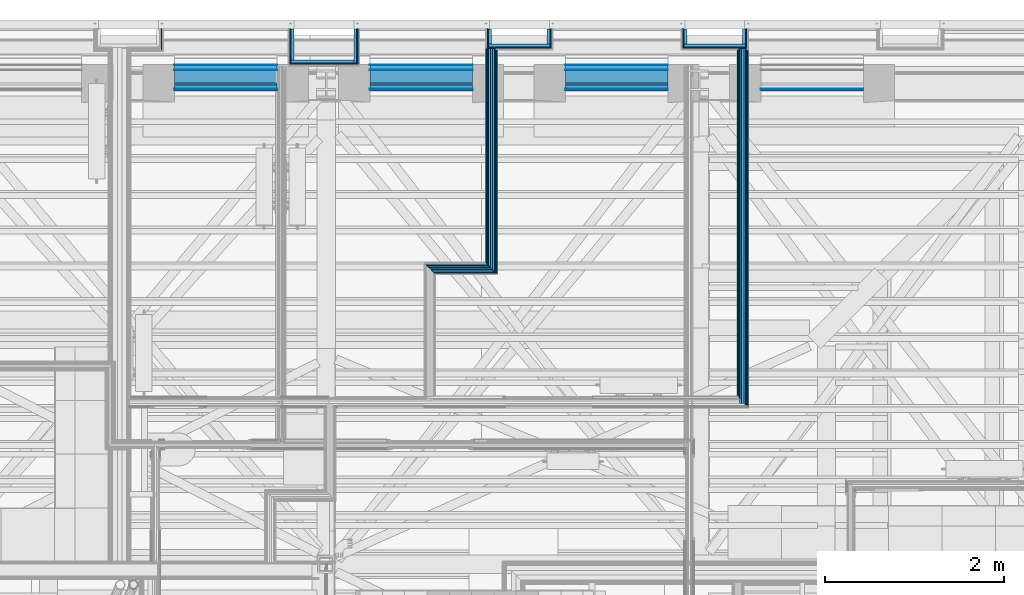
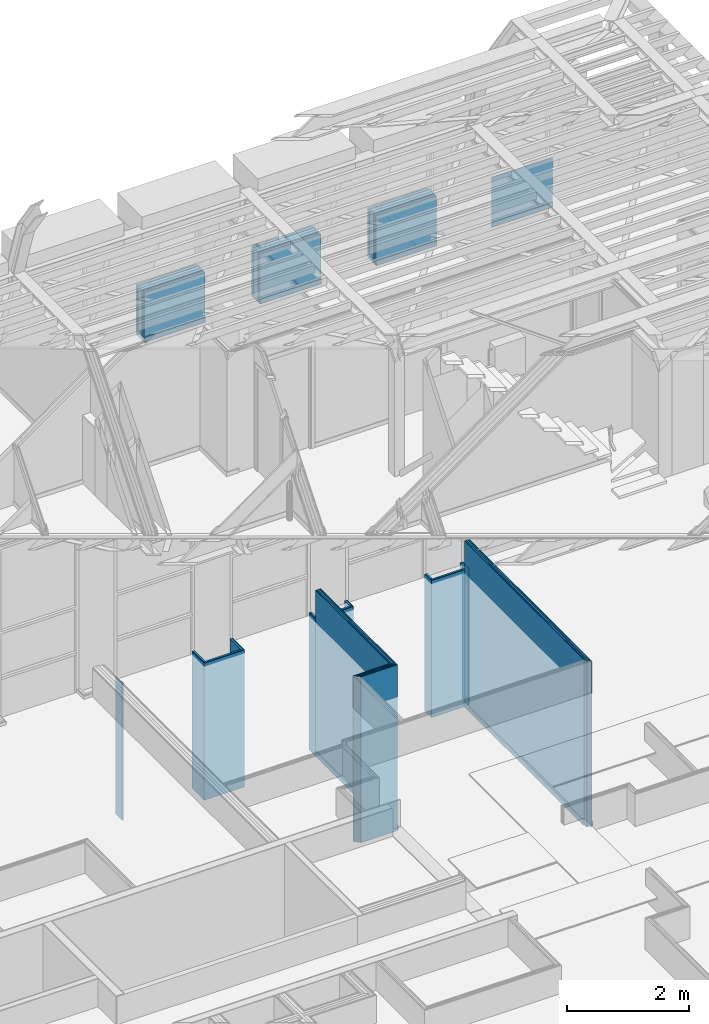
# One storey, part 59 of 183: 64 building element parts, 17 elements without a shape of their own.
"""IFC2X3 building model written with IfcOpenShell, lengths in metres."""

from ifc_helpers import new_model, entity, si_unit, converted_unit, derived_unit, money_unit, direction, frame, frame_2d, origin_with_axes, place, context, subcontext, project, spatial, polyline, rectangle, outline, extrude, material, type_object, element, aggregate, save


model = new_model("IFC2X3")

# Units and contexts
model_context = context("Model", 3, precision=1e-05, world=origin_with_axes(), true_north=direction((0.0, 1.0)))
body_context = subcontext(model_context, "Body", "Model", "MODEL_VIEW", scale=1.0)
ifc_project = project(units=[si_unit("LENGTHUNIT", "METRE"), si_unit("AREAUNIT", "SQUARE_METRE"), si_unit("VOLUMEUNIT", "CUBIC_METRE"), si_unit("ABSORBEDDOSEUNIT", "GRAY"), si_unit("AMOUNTOFSUBSTANCEUNIT", "MOLE"), si_unit("DOSEEQUIVALENTUNIT", "SIEVERT"), si_unit("ELECTRICCAPACITANCEUNIT", "FARAD"), si_unit("ELECTRICCHARGEUNIT", "COULOMB"), si_unit("ELECTRICCONDUCTANCEUNIT", "SIEMENS"), si_unit("ELECTRICCURRENTUNIT", "AMPERE"), si_unit("ELECTRICRESISTANCEUNIT", "OHM"), si_unit("ELECTRICVOLTAGEUNIT", "VOLT"), si_unit("ENERGYUNIT", "JOULE"), si_unit("FORCEUNIT", "NEWTON"), si_unit("FREQUENCYUNIT", "HERTZ"), si_unit("ILLUMINANCEUNIT", "LUX"), si_unit("INDUCTANCEUNIT", "HENRY"), si_unit("LUMINOUSFLUXUNIT", "LUMEN"), si_unit("LUMINOUSINTENSITYUNIT", "CANDELA"), si_unit("MAGNETICFLUXDENSITYUNIT", "TESLA"), si_unit("MAGNETICFLUXUNIT", "WEBER"), si_unit("MASSUNIT", "GRAM"), converted_unit("PLANEANGLEUNIT", "degree", entity("IfcReal", 0.0174532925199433), si_unit("PLANEANGLEUNIT", "RADIAN"), dimensions=[0, 0, 0, 0, 0, 0, 0]), si_unit("POWERUNIT", "WATT"), si_unit("PRESSUREUNIT", "PASCAL"), si_unit("RADIOACTIVITYUNIT", "BECQUEREL"), si_unit("SOLIDANGLEUNIT", "STERADIAN"), si_unit("THERMODYNAMICTEMPERATUREUNIT", "KELVIN"), si_unit("TIMEUNIT", "SECOND"), derived_unit("ACCELERATIONUNIT", [(si_unit("LENGTHUNIT", "METRE"), 1), (si_unit("TIMEUNIT", "SECOND"), -2)]), derived_unit("ANGULARVELOCITYUNIT", [(converted_unit("PLANEANGLEUNIT", "degree", entity("IfcReal", 0.0174532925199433), si_unit("PLANEANGLEUNIT", "RADIAN"), dimensions=[0, 0, 0, 0, 0, 0, 0]), 1), (si_unit("TIMEUNIT", "SECOND"), -1)]), derived_unit("CURVATUREUNIT", [(converted_unit("PLANEANGLEUNIT", "degree", entity("IfcReal", 0.0174532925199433), si_unit("PLANEANGLEUNIT", "RADIAN"), dimensions=[0, 0, 0, 0, 0, 0, 0]), 1), (si_unit("LENGTHUNIT", "METRE"), -1)]), derived_unit("DYNAMICVISCOSITYUNIT", [(si_unit("PRESSUREUNIT", "PASCAL"), 1), (si_unit("TIMEUNIT", "SECOND"), 1)]), derived_unit("HEATFLUXDENSITYUNIT", [(si_unit("POWERUNIT", "WATT"), 1), (si_unit("LENGTHUNIT", "METRE"), -2)]), derived_unit("HEATINGVALUEUNIT", [(si_unit("ENERGYUNIT", "JOULE"), 1), (si_unit("MASSUNIT", "GRAM"), -1)]), derived_unit("INTEGERCOUNTRATEUNIT", [(si_unit("TIMEUNIT", "SECOND"), -1)]), derived_unit("IONCONCENTRATIONUNIT", [(si_unit("MASSUNIT", "GRAM"), 1), (si_unit("VOLUMEUNIT", "CUBIC_METRE"), -1)]), derived_unit("ISOTHERMALMOISTURECAPACITYUNIT", [(si_unit("VOLUMEUNIT", "CUBIC_METRE"), 1), (si_unit("MASSUNIT", "GRAM"), -1)]), derived_unit("KINEMATICVISCOSITYUNIT", [(si_unit("AREAUNIT", "SQUARE_METRE"), 1), (si_unit("TIMEUNIT", "SECOND"), -1)]), derived_unit("LINEARFORCEUNIT", [(si_unit("FORCEUNIT", "NEWTON"), 1), (si_unit("LENGTHUNIT", "METRE"), -1)]), derived_unit("LINEARMOMENTUNIT", [(si_unit("FORCEUNIT", "NEWTON"), 1), (si_unit("LENGTHUNIT", "METRE"), -1)]), derived_unit("LINEARSTIFFNESSUNIT", [(si_unit("FORCEUNIT", "NEWTON"), 1), (si_unit("LENGTHUNIT", "METRE"), -1)]), derived_unit("LINEARVELOCITYUNIT", [(si_unit("LENGTHUNIT", "METRE"), 1), (si_unit("TIMEUNIT", "SECOND"), -1)]), derived_unit("LUMINOUSINTENSITYDISTRIBUTIONUNIT", [(si_unit("LUMINOUSINTENSITYUNIT", "CANDELA"), 1), (si_unit("LUMINOUSFLUXUNIT", "LUMEN"), -1)]), derived_unit("MASSDENSITYUNIT", [(si_unit("MASSUNIT", "GRAM"), 1), (si_unit("VOLUMEUNIT", "CUBIC_METRE"), -1)]), derived_unit("MASSFLOWRATEUNIT", [(si_unit("MASSUNIT", "GRAM"), 1), (si_unit("TIMEUNIT", "SECOND"), -1)]), derived_unit("MASSPERLENGTHUNIT", [(si_unit("MASSUNIT", "GRAM"), 1), (si_unit("LENGTHUNIT", "METRE"), -1)]), derived_unit("MODULUSOFELASTICITYUNIT", [(si_unit("FORCEUNIT", "NEWTON"), 1), (si_unit("AREAUNIT", "SQUARE_METRE"), -1)]), derived_unit("MODULUSOFLINEARSUBGRADEREACTIONUNIT", [(si_unit("FORCEUNIT", "NEWTON"), 1), (si_unit("LENGTHUNIT", "METRE"), -2)]), derived_unit("MODULUSOFROTATIONALSUBGRADEREACTIONUNIT", [(si_unit("FORCEUNIT", "NEWTON"), 1), (si_unit("LENGTHUNIT", "METRE"), 1)]), derived_unit("MODULUSOFSUBGRADEREACTIONUNIT", [(si_unit("FORCEUNIT", "NEWTON"), 1), (si_unit("VOLUMEUNIT", "CUBIC_METRE"), -1)]), derived_unit("MOISTUREDIFFUSIVITYUNIT", [(si_unit("VOLUMEUNIT", "CUBIC_METRE"), 1), (si_unit("TIMEUNIT", "SECOND"), -1)]), derived_unit("MOLECULARWEIGHTUNIT", [(si_unit("MASSUNIT", "GRAM"), 1), (si_unit("AMOUNTOFSUBSTANCEUNIT", "MOLE"), -1)]), derived_unit("PLANARFORCEUNIT", [(si_unit("FORCEUNIT", "NEWTON"), 1), (si_unit("LENGTHUNIT", "METRE"), -2)]), derived_unit("ROTATIONALFREQUENCYUNIT", [(si_unit("TIMEUNIT", "SECOND"), -1)]), derived_unit("ROTATIONALMASSUNIT", [(si_unit("MASSUNIT", "GRAM"), 1), (si_unit("LENGTHUNIT", "METRE"), 2)]), derived_unit("ROTATIONALSTIFFNESSUNIT", [(si_unit("FORCEUNIT", "NEWTON"), 1), (si_unit("LENGTHUNIT", "METRE"), 1), (converted_unit("PLANEANGLEUNIT", "degree", entity("IfcReal", 0.0174532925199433), si_unit("PLANEANGLEUNIT", "RADIAN"), dimensions=[0, 0, 0, 0, 0, 0, 0]), -1)]), derived_unit("SECTIONAREAINTEGRALUNIT", [(si_unit("LENGTHUNIT", "METRE"), 5)]), derived_unit("SECTIONMODULUSUNIT", [(si_unit("LENGTHUNIT", "METRE"), 3)]), derived_unit("SHEARMODULUSUNIT", [(si_unit("FORCEUNIT", "NEWTON"), 1), (si_unit("AREAUNIT", "SQUARE_METRE"), -1)]), derived_unit("SOUNDPOWERUNIT", [(si_unit("ENERGYUNIT", "JOULE"), 1), (si_unit("TIMEUNIT", "SECOND"), -1)]), derived_unit("SPECIFICHEATCAPACITYUNIT", [(si_unit("FORCEUNIT", "NEWTON"), 1), (si_unit("MASSUNIT", "GRAM"), -1), (si_unit("THERMODYNAMICTEMPERATUREUNIT", "KELVIN"), -1)]), derived_unit("TEMPERATUREGRADIENTUNIT", [(si_unit("THERMODYNAMICTEMPERATUREUNIT", "KELVIN"), 1), (si_unit("LENGTHUNIT", "METRE"), -1)]), derived_unit("THERMALADMITTANCEUNIT", [(si_unit("POWERUNIT", "WATT"), 1), (si_unit("AREAUNIT", "SQUARE_METRE"), -1), (si_unit("THERMODYNAMICTEMPERATUREUNIT", "KELVIN"), -1)]), derived_unit("THERMALCONDUCTANCEUNIT", [(si_unit("POWERUNIT", "WATT"), 1), (si_unit("LENGTHUNIT", "METRE"), -1), (si_unit("THERMODYNAMICTEMPERATUREUNIT", "KELVIN"), -1)]), derived_unit("THERMALEXPANSIONCOEFFICIENTUNIT", [(si_unit("THERMODYNAMICTEMPERATUREUNIT", "KELVIN"), -1)]), derived_unit("THERMALRESISTANCEUNIT", [(si_unit("AREAUNIT", "SQUARE_METRE"), 1), (si_unit("POWERUNIT", "WATT"), -1)]), derived_unit("THERMALTRANSMITTANCEUNIT", [(si_unit("POWERUNIT", "WATT"), 1), (si_unit("AREAUNIT", "SQUARE_METRE"), -1), (si_unit("THERMODYNAMICTEMPERATUREUNIT", "KELVIN"), -1)]), derived_unit("TORQUEUNIT", [(si_unit("FORCEUNIT", "NEWTON"), 1), (si_unit("LENGTHUNIT", "METRE"), 1)]), derived_unit("VAPORPERMEABILITYUNIT", [(si_unit("MASSUNIT", "GRAM"), 1), (si_unit("TIMEUNIT", "SECOND"), -1)]), derived_unit("VOLUMETRICFLOWRATEUNIT", [(si_unit("VOLUMEUNIT", "CUBIC_METRE"), 1), (si_unit("TIMEUNIT", "SECOND"), -1)]), derived_unit("WARPINGCONSTANTUNIT", [(si_unit("LENGTHUNIT", "METRE"), 6)]), derived_unit("WARPINGMOMENTUNIT", [(si_unit("FORCEUNIT", "NEWTON"), 1), (si_unit("LENGTHUNIT", "METRE"), 2)]), money_unit("GBP")], contexts=[model_context])

# Site, building, storey
site_placement = place(None, origin_with_axes())
site = spatial("IfcSite", under=ifc_project, at=site_placement, Name="Site", CompositionType="ELEMENT")
building_placement = place(site_placement, origin_with_axes())
building = spatial("IfcBuilding", under=site, at=building_placement, Name="Building01", CompositionType="ELEMENT")
storey_placement = place(building_placement, frame((0.0, 0.0, 5.15), z_axis=(0.0, 0.0, 1.0), x_axis=(1.0, 0.0, 0.0)))
storey = spatial("IfcBuildingStorey", under=building, at=storey_placement, Name="1F", CompositionType="ELEMENT", Elevation=5.15)

# Wall, building element parts
wall_type_1 = type_object("IfcWallType", Name="SHE_A-Walls_Type05a_Partition_95mm_tall", PredefinedType="NOTDEFINED")
wall_1_placement = place(storey_placement, frame((19.085284, 12.099378, 0.0), z_axis=(0.0, 0.0, 1.0), x_axis=(1.0, 0.0, 0.0)))
wall_1 = element("IfcWall", 1, at=wall_1_placement, inside=storey, type_object=wall_type_1, Name="5A", ObjectType="SHE_A-Walls_Type05a_Partition_95mm_tall")
ifc_material_1 = material(Name="A_BSUK_WallInternal_Finishes_Plasterboard")
placement_1 = place(wall_1_placement, origin_with_axes())
building_element_part_1 = element("IfcBuildingElementPart", 2, at=placement_1, material=ifc_material_1, Name="2", context=body_context, shape_type="SweptSolid", body=[
    extrude(outline(polyline([(0.712716, -0.023), (0.023, -0.023), (0.035, -0.035), (0.724716, -0.035), (0.712716, -0.023)])), origin_with_axes(), (0.0, 0.0, 1.0), 3.32),
])
ifc_material_2 = material(Name="Air Cavity")
building_element_part_2 = element("IfcBuildingElementPart", 3, at=placement_1, material=ifc_material_2, Name="3", context=body_context, shape_type="SweptSolid", body=[
    extrude(outline(polyline([(0.689716, 0.0), (0.0, 0.0), (0.023, -0.023), (0.712716, -0.023), (0.689716, 0.0)])), origin_with_axes(), (0.0, 0.0, 1.0), 3.32),
])
ifc_material_3 = material(Name="A_BSUK_Insulation")
building_element_part_3 = element("IfcBuildingElementPart", 4, at=placement_1, material=ifc_material_3, Name="4", context=body_context, shape_type="SweptSolid", body=[
    extrude(outline(polyline([(0.664716, 0.025), (-0.025, 0.025), (0.0, 0.0), (0.689716, 0.0), (0.664716, 0.025)])), origin_with_axes(), (0.0, 0.0, 1.0), 3.32),
])
building_element_part_4 = element("IfcBuildingElementPart", 5, at=placement_1, material=ifc_material_2, Name="5", context=body_context, shape_type="SweptSolid", body=[
    extrude(outline(polyline([(0.641716, 0.048), (-0.048, 0.048), (-0.025, 0.025), (0.664716, 0.025), (0.641716, 0.048)])), origin_with_axes(), (0.0, 0.0, 1.0), 3.32),
])
building_element_part_5 = element("IfcBuildingElementPart", 6, at=placement_1, material=ifc_material_1, Name="6", context=body_context, shape_type="SweptSolid", body=[
    extrude(outline(polyline([(0.629716, 0.06), (-0.06, 0.06), (-0.048, 0.048), (0.641716, 0.048), (0.629716, 0.06)])), origin_with_axes(), (0.0, 0.0, 1.0), 3.32),
])
aggregate(wall_1, [building_element_part_1, building_element_part_2, building_element_part_3, building_element_part_4, building_element_part_5])

wall_2_placement = place(storey_placement, frame((19.775, 12.099378, 0.0), z_axis=(0.0, 0.0, 1.0), x_axis=(0.0, 1.0, 0.0)))
wall_2 = element("IfcWall", 7, at=wall_2_placement, inside=storey, type_object=wall_type_1, Name="5A", ObjectType="SHE_A-Walls_Type05a_Partition_95mm_tall")
ifc_material_4 = material(Name="A_BSUK_Walls_Timber")
placement_2 = place(wall_2_placement, origin_with_axes())
building_element_part_6 = element("IfcBuildingElementPart", 8, at=placement_2, material=ifc_material_4, Name="1", context=body_context, shape_type="SweptSolid", body=[
    extrude(outline(polyline([(2.467622, -0.035), (-0.035, -0.035), (-0.05, -0.05), (2.467622, -0.05), (2.467622, -0.035)])), frame((0.0, 0.0, 0.015), z_axis=(0.0, 0.0, 1.0), x_axis=(1.0, 0.0, 0.0)), (0.0, 0.0, 1.0), 0.1),
])
building_element_part_7 = element("IfcBuildingElementPart", 9, at=placement_2, material=ifc_material_1, Name="2", context=body_context, shape_type="SweptSolid", body=[
    extrude(outline(polyline([(2.482622, -0.023), (-0.023, -0.023), (-0.035, -0.035), (2.482622, -0.035), (2.482622, -0.023)])), origin_with_axes(), (0.0, 0.0, 1.0), 3.32),
])
building_element_part_8 = element("IfcBuildingElementPart", 10, at=placement_2, material=ifc_material_2, Name="3", context=body_context, shape_type="SweptSolid", body=[
    extrude(outline(polyline([(2.482622, 0.0), (0.0, 0.0), (-0.023, -0.023), (2.482622, -0.023), (2.482622, 0.0)])), origin_with_axes(), (0.0, 0.0, 1.0), 3.32),
])
building_element_part_9 = element("IfcBuildingElementPart", 11, at=placement_2, material=ifc_material_3, Name="4", context=body_context, shape_type="SweptSolid", body=[
    extrude(outline(polyline([(2.482622, 0.025), (0.025, 0.025), (0.0, 0.0), (2.482622, 0.0), (2.482622, 0.025)])), origin_with_axes(), (0.0, 0.0, 1.0), 3.32),
])
building_element_part_10 = element("IfcBuildingElementPart", 12, at=placement_2, material=ifc_material_2, Name="5", context=body_context, shape_type="SweptSolid", body=[
    extrude(outline(polyline([(2.482622, 0.048), (0.048, 0.048), (0.025, 0.025), (2.482622, 0.025), (2.482622, 0.048)])), origin_with_axes(), (0.0, 0.0, 1.0), 3.32),
])
building_element_part_11 = element("IfcBuildingElementPart", 13, at=placement_2, material=ifc_material_1, Name="6", context=body_context, shape_type="SweptSolid", body=[
    extrude(outline(polyline([(2.482622, 0.06), (0.06, 0.06), (0.048, 0.048), (2.482622, 0.048), (2.482622, 0.06)])), origin_with_axes(), (0.0, 0.0, 1.0), 3.32),
])
building_element_part_12 = element("IfcBuildingElementPart", 14, at=placement_2, material=ifc_material_4, Name="7", context=body_context, shape_type="SweptSolid", body=[
    extrude(outline(polyline([(2.482622, 0.075), (0.075, 0.075), (0.06, 0.06), (2.482622, 0.06), (2.482622, 0.075)])), frame((0.0, 0.0, 0.015), z_axis=(0.0, 0.0, 1.0), x_axis=(1.0, 0.0, 0.0)), (0.0, 0.0, 1.0), 0.1),
])
aggregate(wall_2, [building_element_part_6, building_element_part_7, building_element_part_8, building_element_part_9, building_element_part_10, building_element_part_11, building_element_part_12])

wall_3_placement = place(storey_placement, frame((22.59, 10.605, 0.0), z_axis=(0.0, 0.0, 1.0), x_axis=(0.0, 1.0, 0.0)))
wall_3 = element("IfcWall", 15, at=wall_3_placement, inside=storey, type_object=wall_type_1, Name="5A", ObjectType="SHE_A-Walls_Type05a_Partition_95mm_tall")
placement_3 = place(wall_3_placement, origin_with_axes())
building_element_part_13 = element("IfcBuildingElementPart", 16, at=placement_3, material=ifc_material_4, Name="1", context=body_context, shape_type="SweptSolid", body=[
    extrude(outline(polyline([(3.962, -0.035), (-0.035, -0.035), (-0.05, -0.05), (3.962, -0.05), (3.962, -0.035)])), frame((0.0, 0.0, 0.015), z_axis=(0.0, 0.0, 1.0), x_axis=(1.0, 0.0, 0.0)), (0.0, 0.0, 1.0), 0.1),
])
building_element_part_14 = element("IfcBuildingElementPart", 17, at=placement_3, material=ifc_material_1, Name="2", context=body_context, shape_type="SweptSolid", body=[
    extrude(outline(polyline([(3.977, -0.023), (-0.023, -0.023), (-0.035, -0.035), (3.977, -0.035), (3.977, -0.023)])), origin_with_axes(), (0.0, 0.0, 1.0), 3.32),
])
building_element_part_15 = element("IfcBuildingElementPart", 18, at=placement_3, material=ifc_material_2, Name="3", context=body_context, shape_type="SweptSolid", body=[
    extrude(outline(polyline([(3.977, 0.0), (0.0, 0.0), (-0.023, -0.023), (3.977, -0.023), (3.977, 0.0)])), origin_with_axes(), (0.0, 0.0, 1.0), 3.32),
])
building_element_part_16 = element("IfcBuildingElementPart", 19, at=placement_3, material=ifc_material_3, Name="4", context=body_context, shape_type="SweptSolid", body=[
    extrude(rectangle(XDim=3.977, YDim=0.025, at=frame_2d((1.9885, 0.0125), x_axis=(-1.0, 0.0))), origin_with_axes(), (0.0, 0.0, 1.0), 3.32),
])
building_element_part_17 = element("IfcBuildingElementPart", 20, at=placement_3, material=ifc_material_2, Name="5", context=body_context, shape_type="SweptSolid", body=[
    extrude(rectangle(XDim=3.977, YDim=0.023, at=frame_2d((1.9885, 0.0365), x_axis=(-1.0, 0.0))), origin_with_axes(), (0.0, 0.0, 1.0), 3.32),
])
building_element_part_18 = element("IfcBuildingElementPart", 21, at=placement_3, material=ifc_material_1, Name="6", context=body_context, shape_type="SweptSolid", body=[
    extrude(outline(polyline([(3.977, 0.06), (0.06, 0.06), (0.048, 0.048), (3.977, 0.048), (3.977, 0.06)])), origin_with_axes(), (0.0, 0.0, 1.0), 3.32),
])
building_element_part_19 = element("IfcBuildingElementPart", 22, at=placement_3, material=ifc_material_4, Name="7", context=body_context, shape_type="SweptSolid", body=[
    extrude(outline(polyline([(3.962, 0.075), (0.075, 0.075), (0.06, 0.06), (3.962, 0.06), (3.962, 0.075)])), frame((0.0, 0.0, 0.015), z_axis=(0.0, 0.0, 1.0), x_axis=(1.0, 0.0, 0.0)), (0.0, 0.0, 1.0), 0.1),
])
aggregate(wall_3, [building_element_part_13, building_element_part_14, building_element_part_15, building_element_part_16, building_element_part_17, building_element_part_18, building_element_part_19])

# Wall, building element part
wall_type_2 = type_object("IfcWallType", Name="SHE_A-Walls_Type06f_ExternalWallInsulation_48+15mm", PredefinedType="NOTDEFINED")
wall_4_placement = place(storey_placement, frame((16.025, 14.8, 0.0), z_axis=(0.0, 0.0, 1.0), x_axis=(0.0, -1.0, 0.0)))
wall_4 = element("IfcWall", 23, at=wall_4_placement, inside=storey, type_object=wall_type_2, Name="6F", ObjectType="SHE_A-Walls_Type06f_ExternalWallInsulation_48+15mm")
building_element_part_20_placement = place(wall_4_placement, origin_with_axes())
building_element_part_20 = element("IfcBuildingElementPart", 24, at=building_element_part_20_placement, material=ifc_material_1, Name="3", context=body_context, shape_type="SweptSolid", body=[
    extrude(outline(polyline([(0.233, 0.045), (0.0, 0.045), (0.0, 0.03), (0.218, 0.03), (0.233, 0.045)])), origin_with_axes(), (0.0, 0.0, 1.0), 2.74),
])
aggregate(wall_4, [building_element_part_20])

# Wall, building element parts
wall_type_3 = type_object("IfcWallType", Name="SHE_A-Walls_Type06d_ExternalWallInsulation_48mm", PredefinedType="NOTDEFINED")
wall_5_placement = place(storey_placement, frame((22.577, 14.8, 0.0), z_axis=(0.0, 0.0, 1.0), x_axis=(0.0, -1.0, 0.0)))
wall_5 = element("IfcWall", 25, at=wall_5_placement, inside=storey, type_object=wall_type_3, Name="6D", ObjectType="SHE_A-Walls_Type06d_ExternalWallInsulation_48mm")
placement_4 = place(wall_5_placement, origin_with_axes())
building_element_part_21 = element("IfcBuildingElementPart", 26, at=placement_4, material=ifc_material_3, Name="1", context=body_context, shape_type="SweptSolid", body=[
    extrude(rectangle(XDim=0.17, YDim=0.036, at=frame_2d((0.085, 0.018), x_axis=(-1.0, 0.0))), origin_with_axes(), (0.0, 0.0, 1.0), 2.74),
])
building_element_part_22 = element("IfcBuildingElementPart", 27, at=placement_4, material=ifc_material_1, Name="2", context=body_context, shape_type="SweptSolid", body=[
    extrude(outline(polyline([(0.218, 0.048), (0.0, 0.048), (0.0, 0.035), (0.205, 0.035), (0.218, 0.048)])), origin_with_axes(), (0.0, 0.0, 1.0), 2.74),
])
aggregate(wall_5, [building_element_part_21, building_element_part_22])

wall_6_placement = place(storey_placement, frame((22.613, 14.63, 0.0), z_axis=(0.0, 0.0, 1.0), x_axis=(-1.0, 0.0, 0.0)))
wall_6 = element("IfcWall", 28, at=wall_6_placement, inside=storey, type_object=wall_type_3, Name="6D", ObjectType="SHE_A-Walls_Type06d_ExternalWallInsulation_48mm")
placement_5 = place(wall_6_placement, origin_with_axes())
building_element_part_23 = element("IfcBuildingElementPart", 29, at=placement_5, material=ifc_material_3, Name="1", context=body_context, shape_type="SweptSolid", body=[
    extrude(rectangle(XDim=0.696, YDim=0.036, at=frame_2d((0.348, 0.018), x_axis=(-1.0, 0.0))), origin_with_axes(), (0.0, 0.0, 1.0), 2.74),
])
building_element_part_24 = element("IfcBuildingElementPart", 30, at=placement_5, material=ifc_material_1, Name="2", context=body_context, shape_type="SweptSolid", body=[
    extrude(outline(polyline([(0.708, 0.048), (-0.012, 0.048), (0.001, 0.035), (0.695, 0.035), (0.708, 0.048)])), origin_with_axes(), (0.0, 0.0, 1.0), 2.74),
])
aggregate(wall_6, [building_element_part_23, building_element_part_24])

wall_7_placement = place(storey_placement, frame((21.953, 14.63, 0.0), z_axis=(0.0, 0.0, 1.0), x_axis=(0.0, 1.0, 0.0)))
wall_7 = element("IfcWall", 31, at=wall_7_placement, inside=storey, type_object=wall_type_3, Name="6D", ObjectType="SHE_A-Walls_Type06d_ExternalWallInsulation_48mm")
placement_6 = place(wall_7_placement, origin_with_axes())
building_element_part_25 = element("IfcBuildingElementPart", 32, at=placement_6, material=ifc_material_3, Name="1", context=body_context, shape_type="SweptSolid", body=[
    extrude(rectangle(XDim=0.036, YDim=0.17, at=frame_2d((0.085, 0.018), x_axis=(0.0, -1.0))), origin_with_axes(), (0.0, 0.0, 1.0), 2.74),
])
building_element_part_26 = element("IfcBuildingElementPart", 33, at=placement_6, material=ifc_material_1, Name="2", context=body_context, shape_type="SweptSolid", body=[
    extrude(outline(polyline([(-0.048, 0.048), (-0.035, 0.035), (0.17, 0.035), (0.17, 0.048), (-0.048, 0.048)])), origin_with_axes(), (0.0, 0.0, 1.0), 2.74),
])
aggregate(wall_7, [building_element_part_25, building_element_part_26])

wall_8_placement = place(storey_placement, frame((20.387, 14.8, 0.0), z_axis=(0.0, 0.0, 1.0), x_axis=(0.0, -1.0, 0.0)))
wall_8 = element("IfcWall", 34, at=wall_8_placement, inside=storey, type_object=wall_type_3, Name="6D", ObjectType="SHE_A-Walls_Type06d_ExternalWallInsulation_48mm")
placement_7 = place(wall_8_placement, origin_with_axes())
building_element_part_27 = element("IfcBuildingElementPart", 35, at=placement_7, material=ifc_material_3, Name="1", context=body_context, shape_type="SweptSolid", body=[
    extrude(rectangle(XDim=0.17, YDim=0.036, at=frame_2d((0.085, 0.018), x_axis=(-1.0, 0.0))), origin_with_axes(), (0.0, 0.0, 1.0), 2.74),
])
building_element_part_28 = element("IfcBuildingElementPart", 36, at=placement_7, material=ifc_material_1, Name="2", context=body_context, shape_type="SweptSolid", body=[
    extrude(outline(polyline([(0.218, 0.048), (0.0, 0.048), (0.0, 0.035), (0.205, 0.035), (0.218, 0.048)])), origin_with_axes(), (0.0, 0.0, 1.0), 2.74),
])
aggregate(wall_8, [building_element_part_27, building_element_part_28])

wall_9_placement = place(storey_placement, frame((20.423, 14.63, 0.0), z_axis=(0.0, 0.0, 1.0), x_axis=(-1.0, 0.0, 0.0)))
wall_9 = element("IfcWall", 37, at=wall_9_placement, inside=storey, type_object=wall_type_3, Name="6D", ObjectType="SHE_A-Walls_Type06d_ExternalWallInsulation_48mm")
placement_8 = place(wall_9_placement, origin_with_axes())
building_element_part_29 = element("IfcBuildingElementPart", 38, at=placement_8, material=ifc_material_3, Name="1", context=body_context, shape_type="SweptSolid", body=[
    extrude(rectangle(XDim=0.696, YDim=0.036, at=frame_2d((0.348, 0.018), x_axis=(-1.0, 0.0))), origin_with_axes(), (0.0, 0.0, 1.0), 2.74),
])
building_element_part_30 = element("IfcBuildingElementPart", 39, at=placement_8, material=ifc_material_1, Name="2", context=body_context, shape_type="SweptSolid", body=[
    extrude(outline(polyline([(0.708, 0.048), (-0.012, 0.048), (0.001, 0.035), (0.695, 0.035), (0.708, 0.048)])), origin_with_axes(), (0.0, 0.0, 1.0), 2.74),
])
aggregate(wall_9, [building_element_part_29, building_element_part_30])

wall_10_placement = place(storey_placement, frame((19.763, 14.63, 0.0), z_axis=(0.0, 0.0, 1.0), x_axis=(0.0, 1.0, 0.0)))
wall_10 = element("IfcWall", 40, at=wall_10_placement, inside=storey, type_object=wall_type_3, Name="6D", ObjectType="SHE_A-Walls_Type06d_ExternalWallInsulation_48mm")
placement_9 = place(wall_10_placement, origin_with_axes())
building_element_part_31 = element("IfcBuildingElementPart", 41, at=placement_9, material=ifc_material_3, Name="1", context=body_context, shape_type="SweptSolid", body=[
    extrude(rectangle(XDim=0.036, YDim=0.17, at=frame_2d((0.085, 0.018), x_axis=(0.0, -1.0))), origin_with_axes(), (0.0, 0.0, 1.0), 2.74),
])
building_element_part_32 = element("IfcBuildingElementPart", 42, at=placement_9, material=ifc_material_1, Name="2", context=body_context, shape_type="SweptSolid", body=[
    extrude(outline(polyline([(-0.048, 0.048), (-0.035, 0.035), (0.17, 0.035), (0.17, 0.048), (-0.048, 0.048)])), origin_with_axes(), (0.0, 0.0, 1.0), 2.74),
])
aggregate(wall_10, [building_element_part_31, building_element_part_32])

wall_11_placement = place(storey_placement, frame((18.22, 14.8, 0.0), z_axis=(0.0, 0.0, 1.0), x_axis=(0.0, -1.0, 0.0)))
wall_11 = element("IfcWall", 43, at=wall_11_placement, inside=storey, type_object=wall_type_3, Name="6D", ObjectType="SHE_A-Walls_Type06d_ExternalWallInsulation_48mm")
placement_10 = place(wall_11_placement, origin_with_axes())
building_element_part_33 = element("IfcBuildingElementPart", 44, at=placement_10, material=ifc_material_3, Name="1", context=body_context, shape_type="SweptSolid", body=[
    extrude(rectangle(XDim=0.386, YDim=0.036, at=frame_2d((0.193, 0.018), x_axis=(-1.0, 0.0))), origin_with_axes(), (0.0, 0.0, 1.0), 2.74),
])
building_element_part_34 = element("IfcBuildingElementPart", 45, at=placement_10, material=ifc_material_1, Name="2", context=body_context, shape_type="SweptSolid", body=[
    extrude(outline(polyline([(0.398, 0.048), (0.0, 0.048), (0.0, 0.035), (0.385, 0.035), (0.398, 0.048)])), origin_with_axes(), (0.0, 0.0, 1.0), 2.74),
])
aggregate(wall_11, [building_element_part_33, building_element_part_34])

wall_12_placement = place(storey_placement, frame((18.22, 14.45, 0.0), z_axis=(0.0, 0.0, 1.0), x_axis=(-1.0, 0.0, 0.0)))
wall_12 = element("IfcWall", 46, at=wall_12_placement, inside=storey, type_object=wall_type_3, Name="6D", ObjectType="SHE_A-Walls_Type06d_ExternalWallInsulation_48mm")
placement_11 = place(wall_12_placement, origin_with_axes())
building_element_part_35 = element("IfcBuildingElementPart", 47, at=placement_11, material=ifc_material_3, Name="1", context=body_context, shape_type="SweptSolid", body=[
    extrude(rectangle(XDim=0.706, YDim=0.036, at=frame_2d((0.353, 0.018), x_axis=(-1.0, 0.0))), origin_with_axes(), (0.0, 0.0, 1.0), 2.74),
])
building_element_part_36 = element("IfcBuildingElementPart", 48, at=placement_11, material=ifc_material_1, Name="2", context=body_context, shape_type="SweptSolid", body=[
    extrude(outline(polyline([(0.718, 0.048), (-0.048, 0.048), (-0.035, 0.035), (0.705, 0.035), (0.718, 0.048)])), origin_with_axes(), (0.0, 0.0, 1.0), 2.74),
])
aggregate(wall_12, [building_element_part_35, building_element_part_36])

wall_13_placement = place(storey_placement, frame((17.55, 14.45, 0.0), z_axis=(0.0, 0.0, 1.0), x_axis=(0.0, 1.0, 0.0)))
wall_13 = element("IfcWall", 49, at=wall_13_placement, inside=storey, type_object=wall_type_3, Name="6D", ObjectType="SHE_A-Walls_Type06d_ExternalWallInsulation_48mm")
placement_12 = place(wall_13_placement, origin_with_axes())
building_element_part_37 = element("IfcBuildingElementPart", 50, at=placement_12, material=ifc_material_3, Name="1", context=body_context, shape_type="SweptSolid", body=[
    extrude(rectangle(XDim=0.036, YDim=0.35, at=frame_2d((0.175, 0.018), x_axis=(0.0, -1.0))), origin_with_axes(), (0.0, 0.0, 1.0), 2.74),
])
building_element_part_38 = element("IfcBuildingElementPart", 51, at=placement_12, material=ifc_material_1, Name="2", context=body_context, shape_type="SweptSolid", body=[
    extrude(outline(polyline([(-0.048, 0.048), (-0.035, 0.035), (0.35, 0.035), (0.35, 0.048), (-0.048, 0.048)])), origin_with_axes(), (0.0, 0.0, 1.0), 2.74),
])
aggregate(wall_13, [building_element_part_37, building_element_part_38])

wall_type_4 = type_object("IfcWallType", Name="SHE_A-Walls_Type06e_ExternalWallPenthouse_280mm", PredefinedType="NOTDEFINED")
wall_14_placement = place(storey_placement, frame((22.780024, 14.335061, 9.78), z_axis=(0.0, 0.0, 1.0), x_axis=(1.0, 0.0, 0.0)))
wall_14 = element("IfcWall", 52, at=wall_14_placement, inside=storey, type_object=wall_type_4, Name="6E", ObjectType="SHE_A-Walls_Type06e_ExternalWallPenthouse_280mm")
placement_13 = place(wall_14_placement, origin_with_axes())
building_element_part_39 = element("IfcBuildingElementPart", 53, at=placement_13, material=ifc_material_4, Name="1", context=body_context, shape_type="SweptSolid", body=[
    extrude(rectangle(XDim=1.149951, YDim=0.015, at=frame_2d((0.574976, -0.2225), x_axis=(-1.0, 0.0))), frame((0.0, 0.0, 0.015), z_axis=(0.0, 0.0, 1.0), x_axis=(1.0, 0.0, 0.0)), (0.0, 0.0, 1.0), 0.1),
])
building_element_part_40 = element("IfcBuildingElementPart", 54, at=placement_13, material=ifc_material_1, Name="2", context=body_context, shape_type="SweptSolid", body=[
    extrude(rectangle(XDim=1.149951, YDim=0.01, at=frame_2d((0.574976, -0.21), x_axis=(-1.0, 0.0))), origin_with_axes(), (0.0, 0.0, 1.0), 1.0),
])
aggregate(wall_14, [building_element_part_39, building_element_part_40])

wall_15_placement = place(storey_placement, frame((20.590024, 14.335061, 9.78), z_axis=(0.0, 0.0, 1.0), x_axis=(1.0, 0.0, 0.0)))
wall_15 = element("IfcWall", 55, at=wall_15_placement, inside=storey, type_object=wall_type_4, Name="6E", ObjectType="SHE_A-Walls_Type06e_ExternalWallPenthouse_280mm")
placement_14 = place(wall_15_placement, origin_with_axes())
building_element_part_41 = element("IfcBuildingElementPart", 56, at=placement_14, material=ifc_material_4, Name="1", context=body_context, shape_type="SweptSolid", body=[
    extrude(rectangle(XDim=1.149951, YDim=0.015, at=frame_2d((0.574976, -0.2225), x_axis=(-1.0, 0.0))), frame((0.0, 0.0, 0.015), z_axis=(0.0, 0.0, 1.0), x_axis=(1.0, 0.0, 0.0)), (0.0, 0.0, 1.0), 0.1),
])
building_element_part_42 = element("IfcBuildingElementPart", 57, at=placement_14, material=ifc_material_1, Name="2", context=body_context, shape_type="SweptSolid", body=[
    extrude(rectangle(XDim=1.149951, YDim=0.01, at=frame_2d((0.574976, -0.21), x_axis=(-1.0, 0.0))), origin_with_axes(), (0.0, 0.0, 1.0), 1.0),
])
building_element_part_43 = element("IfcBuildingElementPart", 58, at=placement_14, material=ifc_material_3, Name="3", context=body_context, shape_type="SweptSolid", body=[
    extrude(rectangle(XDim=1.149951, YDim=0.04, at=frame_2d((0.574976, -0.185), x_axis=(-1.0, 0.0))), origin_with_axes(), (0.0, 0.0, 1.0), 1.0),
])
building_element_part_44 = element("IfcBuildingElementPart", 59, at=placement_14, material=ifc_material_2, Name="4", context=body_context, shape_type="SweptSolid", body=[
    extrude(rectangle(XDim=1.149951, YDim=0.025, at=frame_2d((0.574976, -0.1525), x_axis=(-1.0, 0.0))), origin_with_axes(), (0.0, 0.0, 1.0), 1.0),
])
building_element_part_45 = element("IfcBuildingElementPart", 60, at=placement_14, material=ifc_material_3, Name="5", context=body_context, shape_type="SweptSolid", body=[
    extrude(rectangle(XDim=1.149951, YDim=0.14, at=frame_2d((0.574976, -0.07), x_axis=(-1.0, 0.0))), origin_with_axes(), (0.0, 0.0, 1.0), 1.0),
])
building_element_part_46 = element("IfcBuildingElementPart", 61, at=placement_14, material=ifc_material_4, Name="6", context=body_context, shape_type="SweptSolid", body=[
    extrude(rectangle(XDim=1.149951, YDim=0.01, at=frame_2d((0.574976, 0.005), x_axis=(-1.0, 0.0))), origin_with_axes(), (0.0, 0.0, 1.0), 1.0),
])
building_element_part_47 = element("IfcBuildingElementPart", 62, at=placement_14, material=ifc_material_2, Name="7", context=body_context, shape_type="SweptSolid", body=[
    extrude(rectangle(XDim=1.149951, YDim=0.05, at=frame_2d((0.574976, 0.035), x_axis=(-1.0, 0.0))), origin_with_axes(), (0.0, 0.0, 1.0), 1.0),
])
ifc_material_5 = material(Name="A_BSUK_WallInternal_Finishes_Metal")
building_element_part_48 = element("IfcBuildingElementPart", 63, at=placement_14, material=ifc_material_5, Name="8", context=body_context, shape_type="SweptSolid", body=[
    extrude(rectangle(XDim=1.149951, YDim=0.005, at=frame_2d((0.574976, 0.0625), x_axis=(-1.0, 0.0))), origin_with_axes(), (0.0, 0.0, 1.0), 1.0),
])
aggregate(wall_15, [building_element_part_41, building_element_part_42, building_element_part_43, building_element_part_44, building_element_part_45, building_element_part_46, building_element_part_47, building_element_part_48])

wall_16_placement = place(storey_placement, frame((18.400024, 14.335061, 9.78), z_axis=(0.0, 0.0, 1.0), x_axis=(1.0, 0.0, 0.0)))
wall_16 = element("IfcWall", 64, at=wall_16_placement, inside=storey, type_object=wall_type_4, Name="6E", ObjectType="SHE_A-Walls_Type06e_ExternalWallPenthouse_280mm")
placement_15 = place(wall_16_placement, origin_with_axes())
building_element_part_49 = element("IfcBuildingElementPart", 65, at=placement_15, material=ifc_material_4, Name="1", context=body_context, shape_type="SweptSolid", body=[
    extrude(rectangle(XDim=1.149951, YDim=0.015, at=frame_2d((0.574976, -0.2225), x_axis=(-1.0, 0.0))), frame((0.0, 0.0, 0.015), z_axis=(0.0, 0.0, 1.0), x_axis=(1.0, 0.0, 0.0)), (0.0, 0.0, 1.0), 0.1),
])
building_element_part_50 = element("IfcBuildingElementPart", 66, at=placement_15, material=ifc_material_1, Name="2", context=body_context, shape_type="SweptSolid", body=[
    extrude(rectangle(XDim=1.149951, YDim=0.01, at=frame_2d((0.574976, -0.21), x_axis=(-1.0, 0.0))), origin_with_axes(), (0.0, 0.0, 1.0), 1.0),
])
building_element_part_51 = element("IfcBuildingElementPart", 67, at=placement_15, material=ifc_material_3, Name="3", context=body_context, shape_type="SweptSolid", body=[
    extrude(rectangle(XDim=1.149951, YDim=0.04, at=frame_2d((0.574976, -0.185), x_axis=(-1.0, 0.0))), origin_with_axes(), (0.0, 0.0, 1.0), 1.0),
])
building_element_part_52 = element("IfcBuildingElementPart", 68, at=placement_15, material=ifc_material_2, Name="4", context=body_context, shape_type="SweptSolid", body=[
    extrude(rectangle(XDim=1.149951, YDim=0.025, at=frame_2d((0.574976, -0.1525), x_axis=(-1.0, 0.0))), origin_with_axes(), (0.0, 0.0, 1.0), 1.0),
])
building_element_part_53 = element("IfcBuildingElementPart", 69, at=placement_15, material=ifc_material_3, Name="5", context=body_context, shape_type="SweptSolid", body=[
    extrude(rectangle(XDim=1.149951, YDim=0.14, at=frame_2d((0.574976, -0.07), x_axis=(-1.0, 0.0))), origin_with_axes(), (0.0, 0.0, 1.0), 1.0),
])
building_element_part_54 = element("IfcBuildingElementPart", 70, at=placement_15, material=ifc_material_4, Name="6", context=body_context, shape_type="SweptSolid", body=[
    extrude(rectangle(XDim=1.149951, YDim=0.01, at=frame_2d((0.574976, 0.005), x_axis=(-1.0, 0.0))), origin_with_axes(), (0.0, 0.0, 1.0), 1.0),
])
building_element_part_55 = element("IfcBuildingElementPart", 71, at=placement_15, material=ifc_material_2, Name="7", context=body_context, shape_type="SweptSolid", body=[
    extrude(rectangle(XDim=1.149951, YDim=0.05, at=frame_2d((0.574976, 0.035), x_axis=(-1.0, 0.0))), origin_with_axes(), (0.0, 0.0, 1.0), 1.0),
])
building_element_part_56 = element("IfcBuildingElementPart", 72, at=placement_15, material=ifc_material_5, Name="8", context=body_context, shape_type="SweptSolid", body=[
    extrude(rectangle(XDim=1.149951, YDim=0.005, at=frame_2d((0.574976, 0.0625), x_axis=(-1.0, 0.0))), origin_with_axes(), (0.0, 0.0, 1.0), 1.0),
])
aggregate(wall_16, [building_element_part_49, building_element_part_50, building_element_part_51, building_element_part_52, building_element_part_53, building_element_part_54, building_element_part_55, building_element_part_56])

wall_17_placement = place(storey_placement, frame((16.210024, 14.335061, 9.78), z_axis=(0.0, 0.0, 1.0), x_axis=(1.0, 0.0, 0.0)))
wall_17 = element("IfcWall", 73, at=wall_17_placement, inside=storey, type_object=wall_type_4, Name="6E", ObjectType="SHE_A-Walls_Type06e_ExternalWallPenthouse_280mm")
placement_16 = place(wall_17_placement, origin_with_axes())
building_element_part_57 = element("IfcBuildingElementPart", 74, at=placement_16, material=ifc_material_4, Name="1", context=body_context, shape_type="SweptSolid", body=[
    extrude(rectangle(XDim=1.149951, YDim=0.015, at=frame_2d((0.574976, -0.2225), x_axis=(-1.0, 0.0))), frame((0.0, 0.0, 0.015), z_axis=(0.0, 0.0, 1.0), x_axis=(1.0, 0.0, 0.0)), (0.0, 0.0, 1.0), 0.1),
])
building_element_part_58 = element("IfcBuildingElementPart", 75, at=placement_16, material=ifc_material_1, Name="2", context=body_context, shape_type="SweptSolid", body=[
    extrude(rectangle(XDim=1.149951, YDim=0.01, at=frame_2d((0.574976, -0.21), x_axis=(-1.0, 0.0))), origin_with_axes(), (0.0, 0.0, 1.0), 1.0),
])
building_element_part_59 = element("IfcBuildingElementPart", 76, at=placement_16, material=ifc_material_3, Name="3", context=body_context, shape_type="SweptSolid", body=[
    extrude(rectangle(XDim=1.149951, YDim=0.04, at=frame_2d((0.574976, -0.185), x_axis=(-1.0, 0.0))), origin_with_axes(), (0.0, 0.0, 1.0), 1.0),
])
building_element_part_60 = element("IfcBuildingElementPart", 77, at=placement_16, material=ifc_material_2, Name="4", context=body_context, shape_type="SweptSolid", body=[
    extrude(rectangle(XDim=1.149951, YDim=0.025, at=frame_2d((0.574976, -0.1525), x_axis=(-1.0, 0.0))), origin_with_axes(), (0.0, 0.0, 1.0), 1.0),
])
building_element_part_61 = element("IfcBuildingElementPart", 78, at=placement_16, material=ifc_material_3, Name="5", context=body_context, shape_type="SweptSolid", body=[
    extrude(rectangle(XDim=1.149951, YDim=0.14, at=frame_2d((0.574976, -0.07), x_axis=(-1.0, 0.0))), origin_with_axes(), (0.0, 0.0, 1.0), 1.0),
])
building_element_part_62 = element("IfcBuildingElementPart", 79, at=placement_16, material=ifc_material_4, Name="6", context=body_context, shape_type="SweptSolid", body=[
    extrude(rectangle(XDim=1.149951, YDim=0.01, at=frame_2d((0.574976, 0.005), x_axis=(-1.0, 0.0))), origin_with_axes(), (0.0, 0.0, 1.0), 1.0),
])
building_element_part_63 = element("IfcBuildingElementPart", 80, at=placement_16, material=ifc_material_2, Name="7", context=body_context, shape_type="SweptSolid", body=[
    extrude(rectangle(XDim=1.149951, YDim=0.05, at=frame_2d((0.574976, 0.035), x_axis=(-1.0, 0.0))), origin_with_axes(), (0.0, 0.0, 1.0), 1.0),
])
building_element_part_64 = element("IfcBuildingElementPart", 81, at=placement_16, material=ifc_material_5, Name="8", context=body_context, shape_type="SweptSolid", body=[
    extrude(rectangle(XDim=1.149951, YDim=0.005, at=frame_2d((0.574976, 0.0625), x_axis=(-1.0, 0.0))), origin_with_axes(), (0.0, 0.0, 1.0), 1.0),
])
aggregate(wall_17, [building_element_part_57, building_element_part_58, building_element_part_59, building_element_part_60, building_element_part_61, building_element_part_62, building_element_part_63, building_element_part_64])

save(model, "model.ifc")
